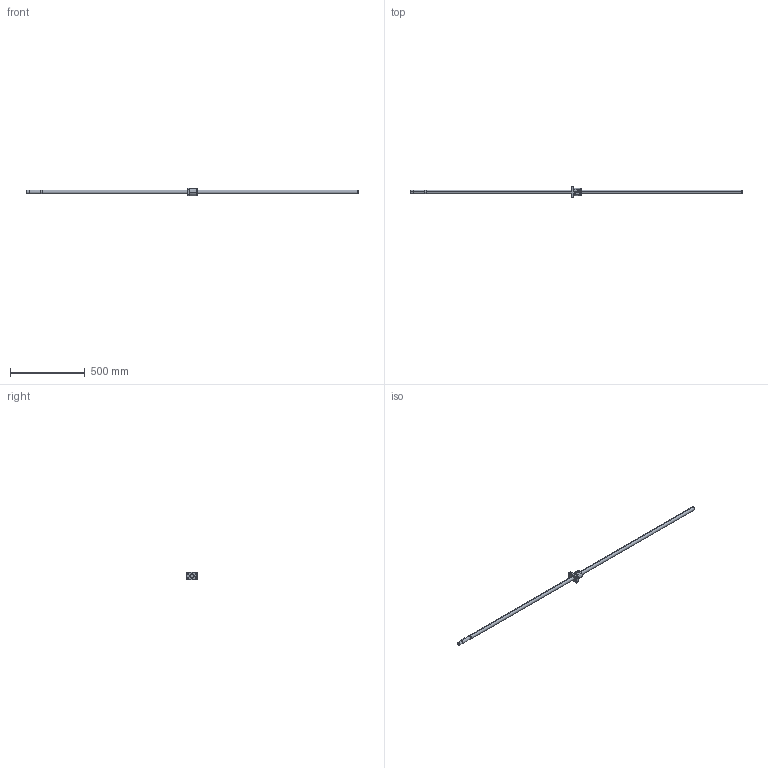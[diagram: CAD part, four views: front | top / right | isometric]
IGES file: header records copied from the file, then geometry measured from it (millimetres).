
Global section: file name: No Iges File Name specified; native system: AutoDesk Inventor R10; preprocessor: AutoDesk Inventor Iges Exporter R10; author: No Author specified; organization: No Organization specified; date: 20101224.141919; units: millimetre
Bounding box: 2220 x 78 x 52 mm (x, y, z)
Surface area: 202365 mm2 (no closed solid volume)
Topology: 0 solids, 0 shells, 139 faces, 1002 edges, 1000 vertices
Faces by surface type: bspline 139
